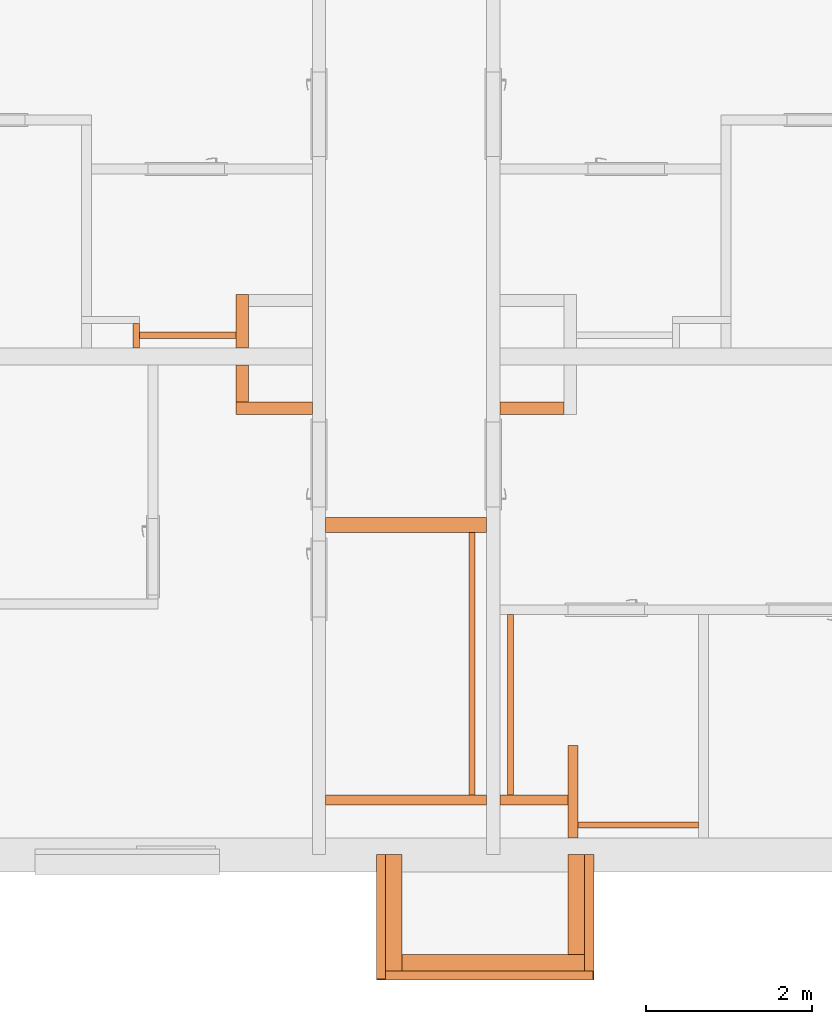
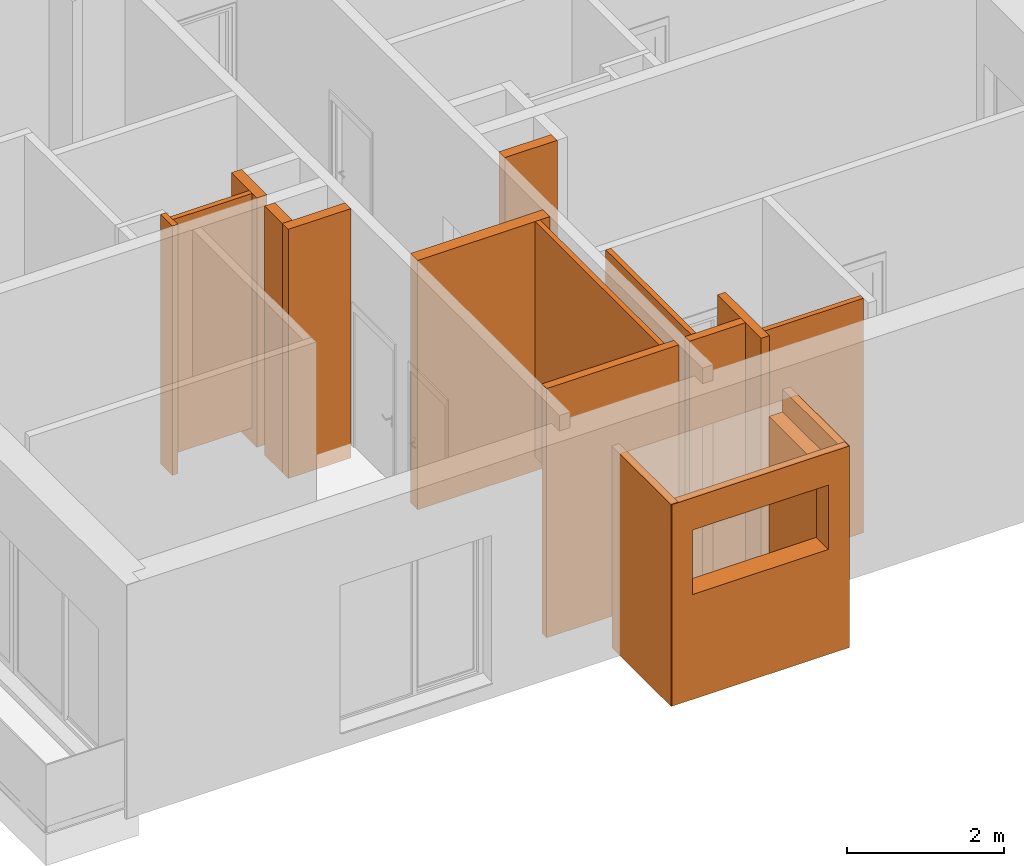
# One storey, part 27 of 46: 16 proxies, 1 opening.
"""IFC2X3 building model written with IfcOpenShell, lengths in millimetres."""

from ifc_helpers import new_model, entity, si_unit, converted_unit, derived_unit, money_unit, direction, frame, origin_with_axes, origin_2d_with_axis, place, context, subcontext, project, spatial, rectangle, extrude, faceted_brep, material, material_list, type_object, element, save


model = new_model("IFC2X3")

# Units and contexts
model_context = context("Model", 3, precision=0.01, world=origin_with_axes(), true_north=direction((0.34421633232, 0.938890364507)))
body_context = subcontext(model_context, "Body", "Model", "MODEL_VIEW")
ifc_project = project(units=[si_unit("LENGTHUNIT", "METRE", prefix="MILLI"), si_unit("AREAUNIT", "SQUARE_METRE"), si_unit("VOLUMEUNIT", "CUBIC_METRE"), converted_unit("PLANEANGLEUNIT", "DEGREE", entity("IfcPlaneAngleMeasure", 0.0174532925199), si_unit("PLANEANGLEUNIT", "RADIAN"), dimensions=[0, 0, 0, 0, 0, 0, 0]), si_unit("SOLIDANGLEUNIT", "STERADIAN"), money_unit("USD"), converted_unit("TIMEUNIT", "Year", entity("IfcTimeMeasure", 31556926.0), si_unit("TIMEUNIT", "SECOND"), dimensions=[0, 0, 1, 0, 0, 0, 0]), si_unit("MASSUNIT", "GRAM", prefix="KILO"), si_unit("THERMODYNAMICTEMPERATUREUNIT", "DEGREE_CELSIUS"), si_unit("LUMINOUSINTENSITYUNIT", "LUMEN"), si_unit("ENERGYUNIT", "JOULE", prefix="MEGA"), derived_unit("THERMALCONDUCTANCEUNIT", [(si_unit("POWERUNIT", "WATT"), 1), (si_unit("LENGTHUNIT", "METRE"), -1), (si_unit("THERMODYNAMICTEMPERATUREUNIT", "KELVIN"), -1)]), derived_unit("SPECIFICHEATCAPACITYUNIT", [(si_unit("ENERGYUNIT", "JOULE"), 1), (si_unit("MASSUNIT", "GRAM", prefix="KILO"), -1), (si_unit("THERMODYNAMICTEMPERATUREUNIT", "KELVIN"), -1)]), derived_unit("MASSDENSITYUNIT", [(si_unit("MASSUNIT", "GRAM", prefix="KILO"), 1), (si_unit("VOLUMEUNIT", "CUBIC_METRE"), -1)])], contexts=[model_context])

# Site, building, storey
site_placement = place(None, origin_with_axes())
site = spatial("IfcSite", under=ifc_project, at=site_placement, Name="USTRONIE MORSKIE", CompositionType="ELEMENT")
building_placement = place(site_placement, origin_with_axes())
building = spatial("IfcBuilding", under=site, at=building_placement, Name="Budynek", CompositionType="ELEMENT")
storey_placement = place(building_placement, origin_with_axes())
storey = spatial("IfcBuildingStorey", under=building, at=storey_placement, Name="PARTER", CompositionType="ELEMENT", Elevation=0.0)

# Proxies
ifc_material_1 = material(Name="Beton konstrukcyjny 01")
ifc_material_2 = material(Name="Płyty styropianowe twarde HIGH-PRIORITY")
ifc_material_3 = material(Name="Membrana przeciwwilgociowa")
ifc_material_list_1 = material_list([ifc_material_1, ifc_material_2, ifc_material_3])
building_element_proxy_type_1 = type_object("IfcBuildingElementProxyType", Name="20+10 GARAŻ 310", PredefinedType="NOTDEFINED")
proxy_1_placement = place(storey_placement, frame((358417.920919, 709201.199036, -230.0), z_axis=(0.0, 0.0, 1.0), x_axis=(0.0, -1.0, 0.0)))
element("IfcBuildingElementProxy", 1, at=proxy_1_placement, inside=storey, type_object=building_element_proxy_type_1, material=ifc_material_list_1, Name="Œciana-006", context=body_context, shape_type="Brep", body=[
    faceted_brep([(100.0, -100.0, 2780.0), (100.0, 100.0, 2780.0), (100.0, 100.0, 0.0), (100.0, -100.0, 0.0), (1500.0, 100.0, 2780.0), (1500.0, -100.0, 2780.0), (1500.0, 100.0, 0.0), (1500.0, -100.0, 0.0)], [[[0, 1, 2, 3]], [[4, 1, 0, 5]], [[1, 4, 6, 2]], [[6, 7, 3, 2]], [[5, 0, 3, 7]], [[4, 5, 7, 6]]]),
    faceted_brep([(1600.0, -200.0, 0.0), (100.0, -200.0, 0.0), (100.0, -100.0, 0.0), (1600.0, -100.0, 0.0), (1600.0, -200.0, 3130.0), (100.0, -200.0, 3130.0), (100.0, -100.0, 3130.0), (1600.0, -100.0, 3130.0)], [[[0, 1, 2, 3]], [[4, 5, 1, 0]], [[2, 1, 5, 6]], [[3, 2, 6, 7]], [[3, 7, 4, 0]], [[7, 6, 5, 4]]]),
    faceted_brep([(1610.0, -210.0, 0.0), (100.0, -210.0, 0.0), (100.0, -200.0, 0.0), (1610.0, -200.0, 0.0), (1610.0, -210.0, 3130.0), (100.0, -210.0, 3130.0), (100.0, -200.0, 3130.0), (1610.0, -200.0, 3130.0)], [[[0, 1, 2, 3]], [[4, 5, 1, 0]], [[2, 1, 5, 6]], [[3, 2, 6, 7]], [[3, 7, 4, 0]], [[7, 6, 5, 4]]]),
])
ifc_material_list_2 = material_list([ifc_material_3, ifc_material_2, ifc_material_1])
proxy_2_placement = place(storey_placement, frame((360617.920919, 709201.199036, -230.0), z_axis=(0.0, 0.0, 1.0), x_axis=(0.0, -1.0, 0.0)))
element("IfcBuildingElementProxy", 2, at=proxy_2_placement, inside=storey, type_object=building_element_proxy_type_1, material=ifc_material_list_2, Name="Œciana-006", context=body_context, shape_type="Brep", body=[
    faceted_brep([(1600.0, 210.0, 3130.0), (100.0, 210.0, 3130.0), (100.0, 200.0, 3130.0), (1600.0, 200.0, 3130.0), (1600.0, 210.0, 0.0), (100.0, 210.0, 0.0), (100.0, 200.0, 0.0), (1600.0, 200.0, 0.0)], [[[0, 1, 2, 3]], [[4, 5, 1, 0]], [[2, 1, 5, 6]], [[3, 2, 6, 7]], [[3, 7, 4, 0]], [[7, 6, 5, 4]]]),
    faceted_brep([(1500.0, 200.0, 3130.0), (100.0, 200.0, 3130.0), (100.0, 100.0, 3130.0), (1500.0, 100.0, 3130.0), (1500.0, 200.0, 0.0), (100.0, 200.0, 0.0), (100.0, 100.0, 0.0), (1500.0, 100.0, 0.0)], [[[0, 1, 2, 3]], [[4, 5, 1, 0]], [[2, 1, 5, 6]], [[3, 2, 6, 7]], [[3, 7, 4, 0]], [[7, 6, 5, 4]]]),
    faceted_brep([(100.0, -100.0, 2780.0), (100.0, 100.0, 2780.0), (100.0, 100.0, 0.0), (100.0, -100.0, 0.0), (1300.0, 100.0, 2780.0), (1300.0, -100.0, 2780.0), (1300.0, 100.0, 0.0), (1300.0, -100.0, 0.0)], [[[0, 1, 2, 3]], [[4, 1, 0, 5]], [[1, 4, 6, 2]], [[6, 7, 3, 2]], [[5, 0, 3, 7]], [[4, 5, 7, 6]]]),
])

# Proxy, opening
proxy_3_placement = place(storey_placement, frame((358417.920919, 707801.199036, -230.0), z_axis=(0.0, 0.0, 1.0), x_axis=(1.0, 0.0, 0.0)))
proxy_3 = element("IfcBuildingElementProxy", 3, at=proxy_3_placement, inside=storey, type_object=building_element_proxy_type_1, material=ifc_material_list_1, Name="Œciana-006", context=body_context, shape_type="Brep", body=[
    faceted_brep([(100.0, 100.0, 2780.0), (2300.0, 100.0, 2780.0), (2300.0, 100.0, 0.0), (100.0, 100.0, 0.0), (2300.0, -100.0, 2780.0), (100.0, -100.0, 2780.0), (2300.0, -100.0, 0.0), (100.0, -100.0, 0.0)], [[[0, 1, 2, 3]], [[4, 1, 0, 5]], [[1, 4, 6, 2]], [[2, 6, 7, 3]], [[5, 0, 3, 7]], [[4, 5, 7, 6]]]),
    faceted_brep([(2400.0, -200.0, 0.0), (-100.0, -200.0, 0.0), (-100.0, -100.0, 0.0), (2400.0, -100.0, 0.0), (2400.0, -200.0, 3130.0), (-100.0, -200.0, 3130.0), (-100.0, -100.0, 3130.0), (2400.0, -100.0, 3130.0)], [[[0, 1, 2, 3]], [[4, 5, 1, 0]], [[2, 1, 5, 6]], [[3, 2, 6, 7]], [[3, 7, 4, 0]], [[7, 6, 5, 4]]]),
    faceted_brep([(2410.0, -210.0, 0.0), (-200.0, -210.0, 0.0), (-200.0, -200.0, 0.0), (2410.0, -200.0, 0.0), (2410.0, -210.0, 3130.0), (-200.0, -210.0, 3130.0), (-200.0, -200.0, 3130.0), (2410.0, -200.0, 3130.0)], [[[0, 1, 2, 3]], [[4, 5, 1, 0]], [[2, 1, 5, 6]], [[3, 2, 6, 7]], [[3, 7, 4, 0]], [[7, 6, 5, 4]]]),
])
opening_placement = place(proxy_3_placement, frame((1100.0, 0.0, 1630.0), z_axis=(0.0, 0.0, 1.0), x_axis=(1.0, 0.0, 0.0)))
element("IfcOpeningElement", 4, at=opening_placement, cuts=proxy_3, Name="Okna-005", context=body_context, shape_type="SweptSolid", body=[
    extrude(rectangle(XDim=2000.0, YDim=1000.0, at=origin_2d_with_axis()), frame((0.0, 99.9999999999, 500.0), z_axis=(0.0, -1.0, 0.0), x_axis=(1.0, 0.0, 0.0)), (0.0, 0.0, -1.0), 310.0),
    extrude(rectangle(XDim=2000.0, YDim=1000.0, at=origin_2d_with_axis()), frame((0.0, 99.9999999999, 500.0), z_axis=(0.0, 1.0, 0.0), x_axis=(1.0, 0.0, 0.0)), (0.0, 0.0, -1.0), 310.0),
])

# Proxies
ifc_material_4 = material(Name="Bloczki silikatowe")
building_element_proxy_type_2 = type_object("IfcBuildingElementProxyType", Name="Bloczki silikatowe 120", PredefinedType="NOTDEFINED")
proxy_4_placement = place(storey_placement, frame((359617.920919, 709701.199036, -230.0), z_axis=(0.0, 0.0, 1.0), x_axis=(-1.0, 0.0, 0.0)))
element("IfcBuildingElementProxy", 5, at=proxy_4_placement, inside=storey, type_object=building_element_proxy_type_2, material=ifc_material_4, Name="SW-04", context=body_context, shape_type="Brep", body=[
    faceted_brep([(2020.0, -120.0, 3870.0), (2020.0, 4.54747350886e-10, 3870.0), (79.9973539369, 0.0, 3870.0), (79.9973539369, -120.0, 3870.0), (2020.0, -120.0, 0.0), (2020.0, 4.54747350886e-10, 0.0), (79.9973539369, 0.0, 0.0), (79.9973539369, -120.0, 0.0)], [[[0, 1, 2, 3]], [[1, 0, 4, 5]], [[1, 5, 6, 2]], [[7, 3, 2, 6]], [[4, 0, 3, 7]], [[5, 4, 7, 6]]]),
])
proxy_5_placement = place(storey_placement, frame((360517.920919, 710416.199036, -230.0), z_axis=(0.0, 0.0, 1.0), x_axis=(0.0, -1.0, 0.0)))
element("IfcBuildingElementProxy", 6, at=proxy_5_placement, inside=storey, type_object=building_element_proxy_type_2, material=ifc_material_4, Name="SW-04", context=body_context, shape_type="Brep", body=[
    faceted_brep([(0.0, 0.0, 3870.0), (1115.0, 0.0, 3870.0), (1115.0, 120.0, 3870.0), (0.0, 120.0, 3870.0), (1115.0, 0.0, 0.0), (0.0, 0.0, 0.0), (1115.0, 120.0, 0.0), (0.0, 120.0, 0.0)], [[[0, 1, 2, 3]], [[4, 1, 0, 5]], [[6, 2, 1, 4]], [[3, 2, 6, 7]], [[5, 0, 3, 7]], [[7, 6, 4, 5]]]),
])
proxy_6_placement = place(storey_placement, frame((359617.920919, 709701.199036, -230.0), z_axis=(0.0, 0.0, 1.0), x_axis=(1.0, 0.0, 0.0)))
element("IfcBuildingElementProxy", 7, at=proxy_6_placement, inside=storey, type_object=building_element_proxy_type_2, material=ifc_material_4, Name="SW-04", context=body_context, shape_type="Brep", body=[
    faceted_brep([(900.0, 120.0, 0.0), (80.002646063, 120.0, 0.0), (80.002646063, 120.0, 3869.99998631), (900.0, 120.0, 3870.0), (900.0, 3.41060513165e-10, 0.0), (80.0026460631, 2.27373675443e-10, 0.0), (80.0026460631, 2.27373675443e-10, 3869.99998631), (900.0, 3.41060513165e-10, 3870.0)], [[[0, 1, 2, 3]], [[4, 5, 1, 0]], [[5, 6, 2, 1]], [[3, 2, 6, 7]], [[3, 7, 4, 0]], [[7, 6, 5, 4]]]),
])
building_element_proxy_type_3 = type_object("IfcBuildingElementProxyType", Name="Bloczki silikatowe 180", PredefinedType="NOTDEFINED")
proxy_7_placement = place(storey_placement, frame((359617.923565, 713071.199036, -230.0), z_axis=(0.0, 0.0, 1.0), x_axis=(-1.0, 0.0, 0.0)))
element("IfcBuildingElementProxy", 8, at=proxy_7_placement, inside=storey, type_object=building_element_proxy_type_3, material=ifc_material_4, Name="SW-02", context=body_context, shape_type="Brep", body=[
    faceted_brep([(2020.00264606, 90.0, 0.0), (2020.00264606, -90.0, 0.0), (80.0, -90.0, 0.0), (80.0, 90.0, 0.0), (2020.00264606, 90.0, 3870.0), (2020.00264606, -90.0, 3870.0), (80.0, -90.0, 3870.0), (80.0, 90.0, 3870.0)], [[[0, 1, 2, 3]], [[1, 0, 4, 5]], [[1, 5, 6, 2]], [[7, 3, 2, 6]], [[4, 0, 3, 7]], [[5, 4, 7, 6]]]),
])
ifc_material_5 = material(Name="-Pustka powietrzna")
ifc_material_6 = material(Name="Płyta GK")
ifc_material_list_3 = material_list([ifc_material_5, ifc_material_6, ifc_material_6])
building_element_proxy_type_4 = type_object("IfcBuildingElementProxyType", Name="330-SD GK 2-warstwy 75", PredefinedType="NOTDEFINED")
proxy_8_placement = place(storey_placement, frame((359372.920919, 713071.199036, -160.0), z_axis=(0.0, 0.0, 1.0), x_axis=(0.0, -1.0, 0.0)))
element("IfcBuildingElementProxy", 9, at=proxy_8_placement, inside=storey, type_object=building_element_proxy_type_4, material=ifc_material_list_3, Name="Ściana-009", context=body_context, shape_type="Brep", body=[
    faceted_brep([(3249.99999956, 25.0, 160.0), (90.0, 25.0, 160.0), (90.0, 25.0, 3800.0), (3249.99999956, 25.0, 3800.0), (90.0, -25.0, 160.0), (3249.99999956, -25.0, 160.0), (90.0, -25.0, 3800.0), (3249.99999956, -25.0, 3800.0)], [[[0, 1, 2, 3]], [[4, 1, 0, 5]], [[1, 4, 6, 2]], [[7, 3, 2, 6]], [[5, 0, 3, 7]], [[4, 5, 7, 6]]]),
    faceted_brep([(3249.99999956, -25.0, 145.0), (90.0, -25.0, 145.0), (90.0, -25.0, 3800.0), (3249.99999956, -25.0, 3800.0), (90.0, -37.5, 145.0), (3249.99999956, -37.5, 145.0), (90.0, -37.5, 3800.0), (3249.99999956, -37.5, 3800.0)], [[[0, 1, 2, 3]], [[4, 1, 0, 5]], [[1, 4, 6, 2]], [[7, 3, 2, 6]], [[5, 0, 3, 7]], [[4, 5, 7, 6]]]),
    faceted_brep([(3249.99999956, -37.5, 145.0), (90.0, -37.5, 145.0), (90.0, -37.5, 3800.0), (3249.99999956, -37.5, 3800.0), (90.0, -50.0, 145.0), (3249.99999956, -50.0, 145.0), (90.0, -50.0, 3800.0), (3249.99999956, -50.0, 3800.0)], [[[0, 1, 2, 3]], [[4, 1, 0, 5]], [[1, 4, 6, 2]], [[7, 3, 2, 6]], [[5, 0, 3, 7]], [[4, 5, 7, 6]]]),
])
ifc_material_list_4 = material_list([ifc_material_6, ifc_material_6, ifc_material_5])
proxy_9_placement = place(storey_placement, frame((355317.920919, 715371.200737, -180.0), z_axis=(0.0, 0.0, 1.0), x_axis=(1.0, 0.0, 0.0)))
element("IfcBuildingElementProxy", 10, at=proxy_9_placement, inside=storey, type_object=building_element_proxy_type_4, material=ifc_material_list_4, Name="Ściana-009", context=body_context, shape_type="Brep", body=[
    faceted_brep([(1200.0, 12.5, 165.0), (1200.0, 25.0, 165.0), (1200.0, 25.0, 3820.0), (1200.0, 12.5, 3820.0), (40.0, 25.0, 165.0), (40.0, 12.5, 165.0), (40.0, 25.0, 3820.0), (40.0, 12.5, 3820.0)], [[[0, 1, 2, 3]], [[4, 1, 0, 5]], [[1, 4, 6, 2]], [[3, 2, 6, 7]], [[5, 0, 3, 7]], [[4, 5, 7, 6]]]),
    faceted_brep([(1200.0, 0.0, 165.0), (1200.0, 12.5, 165.0), (1200.0, 12.5, 3820.0), (1200.0, 0.0, 3820.0), (40.0, 12.5, 165.0), (40.0, 0.0, 165.0), (40.0, 12.5, 3820.0), (40.0, 0.0, 3820.0)], [[[0, 1, 2, 3]], [[4, 1, 0, 5]], [[1, 4, 6, 2]], [[3, 2, 6, 7]], [[5, 0, 3, 7]], [[4, 5, 7, 6]]]),
    faceted_brep([(1200.0, -50.0, 180.0), (1200.0, 0.0, 180.0), (1200.0, 0.0, 3820.0), (1200.0, -50.0, 3820.0), (40.0, 0.0, 180.0), (40.0, -50.0, 180.0), (40.0, 0.0, 3820.0), (40.0, -50.0, 3820.0)], [[[0, 1, 2, 3]], [[4, 1, 0, 5]], [[1, 4, 6, 2]], [[3, 2, 6, 7]], [[5, 0, 3, 7]], [[4, 5, 7, 6]]]),
])
proxy_10_placement = place(storey_placement, frame((360517.920919, 709446.199036, -160.0), z_axis=(0.0, 0.0, 1.0), x_axis=(1.0, 0.0, 0.0)))
element("IfcBuildingElementProxy", 11, at=proxy_10_placement, inside=storey, type_object=building_element_proxy_type_4, material=ifc_material_list_4, Name="Ściana-009", context=body_context, shape_type="Brep", body=[
    faceted_brep([(1570.0, 37.5, 145.0), (1570.0, 50.0, 145.0), (1570.0, 50.0, 3800.0), (1570.0, 37.5, 3800.0), (120.0, 50.0, 145.0), (120.0, 37.5, 145.0), (120.0, 50.0, 3800.0), (120.0, 37.5, 3800.0)], [[[0, 1, 2, 3]], [[4, 1, 0, 5]], [[1, 4, 6, 2]], [[3, 2, 6, 7]], [[5, 0, 3, 7]], [[4, 5, 7, 6]]]),
    faceted_brep([(1570.0, 25.0, 145.0), (1570.0, 37.5, 145.0), (1570.0, 37.5, 3800.0), (1570.0, 25.0, 3800.0), (120.0, 37.5, 145.0), (120.0, 25.0, 145.0), (120.0, 37.5, 3800.0), (120.0, 25.0, 3800.0)], [[[0, 1, 2, 3]], [[4, 1, 0, 5]], [[1, 4, 6, 2]], [[3, 2, 6, 7]], [[5, 0, 3, 7]], [[4, 5, 7, 6]]]),
    faceted_brep([(1570.0, -25.0, 160.0), (1570.0, 25.0, 160.0), (1570.0, 25.0, 3800.0), (1570.0, -25.0, 3800.0), (120.0, 25.0, 160.0), (120.0, -25.0, 160.0), (120.0, 25.0, 3800.0), (120.0, -25.0, 3800.0)], [[[0, 1, 2, 3]], [[4, 1, 0, 5]], [[1, 4, 6, 2]], [[3, 2, 6, 7]], [[5, 0, 3, 7]], [[4, 5, 7, 6]]]),
])
proxy_11_placement = place(storey_placement, frame((359812.920919, 712051.218403, -160.0), z_axis=(0.0, 0.0, 1.0), x_axis=(0.0, -1.0, 0.0)))
element("IfcBuildingElementProxy", 12, at=proxy_11_placement, inside=storey, type_object=building_element_proxy_type_4, material=ifc_material_list_4, Name="Ściana-009", context=body_context, shape_type="Brep", body=[
    faceted_brep([(2230.01936646, 50.0, 145.0), (59.9999999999, 50.0, 145.0), (59.9999999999, 50.0, 3800.0), (2230.01936646, 50.0, 3800.0), (59.9999999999, 37.5, 145.0), (2230.01936646, 37.5, 145.0), (59.9999999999, 37.5, 3800.0), (2230.01936646, 37.5, 3800.0)], [[[0, 1, 2, 3]], [[4, 1, 0, 5]], [[1, 4, 6, 2]], [[7, 3, 2, 6]], [[5, 0, 3, 7]], [[4, 5, 7, 6]]]),
    faceted_brep([(2230.01936646, 37.5, 145.0), (59.9999999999, 37.5, 145.0), (59.9999999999, 37.5, 3800.0), (2230.01936646, 37.5, 3800.0), (59.9999999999, 25.0, 145.0), (2230.01936646, 25.0, 145.0), (59.9999999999, 25.0, 3800.0), (2230.01936646, 25.0, 3800.0)], [[[0, 1, 2, 3]], [[4, 1, 0, 5]], [[1, 4, 6, 2]], [[7, 3, 2, 6]], [[5, 0, 3, 7]], [[4, 5, 7, 6]]]),
    faceted_brep([(2230.01936646, 25.0, 160.0), (59.9999999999, 25.0, 160.0), (59.9999999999, 25.0, 3800.0), (2230.01936646, 25.0, 3800.0), (59.9999999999, -25.0, 160.0), (2230.01936646, -25.0, 160.0), (59.9999999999, -25.0, 3800.0), (2230.01936646, -25.0, 3800.0)], [[[0, 1, 2, 3]], [[4, 1, 0, 5]], [[1, 4, 6, 2]], [[7, 3, 2, 6]], [[5, 0, 3, 7]], [[4, 5, 7, 6]]]),
])
building_element_proxy_type_5 = type_object("IfcBuildingElementProxyType", Name="Bloczki silikatowe 80", PredefinedType="NOTDEFINED")
proxy_12_placement = place(storey_placement, frame((355317.920919, 715101.199036, -230.0), z_axis=(0.0, 0.0, 1.0), x_axis=(0.0, 1.0, 0.0)))
element("IfcBuildingElementProxy", 13, at=proxy_12_placement, inside=storey, type_object=building_element_proxy_type_5, material=ifc_material_4, Name="Ściana-010", context=body_context, shape_type="Brep", body=[
    faceted_brep([(400.01915523, 40.0, 0.0), (400.01915523, -40.0, 0.0), (100.0, -40.0, 0.0), (100.0, 40.0, 0.0), (400.01915523, 40.0, 3870.0), (400.01915523, -40.0, 3870.0), (100.0, -40.0, 3870.0), (100.0, 40.0, 3870.0)], [[[0, 1, 2, 3]], [[1, 0, 4, 5]], [[1, 5, 6, 2]], [[7, 3, 2, 6]], [[4, 0, 3, 7]], [[5, 4, 7, 6]]]),
])
building_element_proxy_type_6 = type_object("IfcBuildingElementProxyType", Name="Bloczki silikatowe 150", PredefinedType="NOTDEFINED")
proxy_13_placement = place(storey_placement, frame((357517.920919, 714476.197058, -230.0), z_axis=(0.0, 0.0, 1.0), x_axis=(-1.0, 0.0, 0.0)))
element("IfcBuildingElementProxy", 14, at=proxy_13_placement, inside=storey, type_object=building_element_proxy_type_6, material=ifc_material_4, Name="SW-03", context=body_context, shape_type="Brep", body=[
    faceted_brep([(1000.00090117, 75.0, 0.0), (1000.00090117, -75.0, 0.0), (80.0, -75.0, 0.0), (80.0, 75.0, 0.0), (1000.00090117, 75.0, 3870.0), (1000.00090117, -75.0, 3870.0), (80.0, -75.0, 3870.0), (80.0, 75.0, 3870.0)], [[[0, 1, 2, 3]], [[1, 0, 4, 5]], [[1, 5, 6, 2]], [[7, 3, 2, 6]], [[4, 0, 3, 7]], [[5, 4, 7, 6]]]),
])
proxy_14_placement = place(storey_placement, frame((356592.920018, 714476.197058, -230.0), z_axis=(0.0, 0.0, 1.0), x_axis=(0.0, 1.0, 0.0)))
element("IfcBuildingElementProxy", 15, at=proxy_14_placement, inside=storey, type_object=building_element_proxy_type_6, material=ifc_material_4, Name="SW-03", context=body_context, shape_type="Brep", body=[
    faceted_brep([(525.001977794, 75.0, 0.0), (525.001977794, -75.0, 0.0), (75.0, -75.0, 0.0), (75.0, 75.0, 0.0), (525.001977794, 75.0, 3870.0), (525.001977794, -75.0, 3870.0), (75.0, -75.0, 3870.0), (75.0, 75.0, 3870.0)], [[[0, 1, 2, 3]], [[1, 0, 4, 5]], [[1, 5, 6, 2]], [[7, 3, 2, 6]], [[4, 0, 3, 7]], [[5, 4, 7, 6]]]),
])
proxy_15_placement = place(storey_placement, frame((360542.92182, 714476.197058, -230.0), z_axis=(0.0, 0.0, 1.0), x_axis=(-1.0, 0.0, 0.0)))
element("IfcBuildingElementProxy", 16, at=proxy_15_placement, inside=storey, type_object=building_element_proxy_type_6, material=ifc_material_4, Name="Ściana-009", context=body_context, shape_type="Brep", body=[
    faceted_brep([(844.998255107, 75.0, 0.0), (844.998255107, -75.0, 0.0), (75.0, -75.0, 0.0), (75.0, 75.0, 0.0), (844.998255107, 75.0, 3870.0), (844.998255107, -75.0, 3870.0), (75.0, -75.0, 3870.0), (75.0, 75.0, 3870.0)], [[[0, 1, 2, 3]], [[1, 0, 4, 5]], [[1, 5, 6, 2]], [[7, 3, 2, 6]], [[4, 0, 3, 7]], [[5, 4, 7, 6]]]),
])
proxy_16_placement = place(storey_placement, frame((356592.920919, 715101.199036, -230.0), z_axis=(0.0, 0.0, 1.0), x_axis=(0.0, 1.0, 0.0)))
element("IfcBuildingElementProxy", 17, at=proxy_16_placement, inside=storey, type_object=building_element_proxy_type_6, material=ifc_material_4, Name="Ściana-009", context=body_context, shape_type="Brep", body=[
    faceted_brep([(749.994856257, 75.0, 3870.0), (100.0, 75.0006891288, 3870.0), (100.0, -74.9993108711, 3870.0), (749.994856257, -75.0, 3870.0), (749.994856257, 75.0, 0.0), (100.0, 75.0006891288, 0.0), (100.0, -74.9993108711, 0.0), (749.994856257, -75.0, 0.0)], [[[0, 1, 2, 3]], [[4, 5, 1, 0]], [[5, 6, 2, 1]], [[3, 2, 6, 7]], [[0, 3, 7, 4]], [[7, 6, 5, 4]]]),
])

save(model, "model.ifc")
